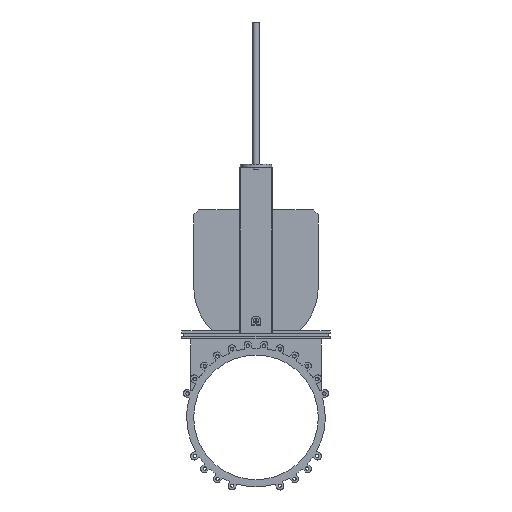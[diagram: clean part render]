
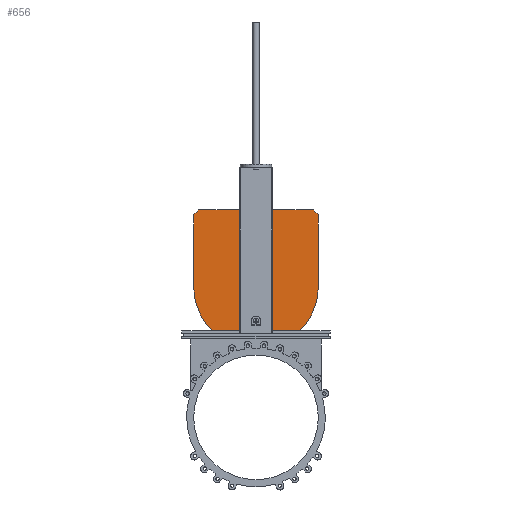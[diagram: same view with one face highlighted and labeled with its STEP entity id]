
A CAD part, front view. The second image highlights one B-rep face of the part: STEP entity #656.
In plain terms, the highlighted planar face has unit normal (0, -1, 0).
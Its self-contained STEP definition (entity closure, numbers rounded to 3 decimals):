
#656=ADVANCED_FACE('',(#4248),#4250,.T.);
#4248=FACE_BOUND('',#4249,.T.);
#4249=EDGE_LOOP('',(#7227,#7228,#7229,#7230,#7231,#7232,#7233,#7234,#7235,#7236,
#7237,#7238));
#4250=PLANE('',#4251);
#4251=AXIS2_PLACEMENT_3D('',#4252,#4253,#4254);
#4252=CARTESIAN_POINT('',(0.,-7.,0.));
#4253=DIRECTION('',(0.,-1.,0.));
#4254=DIRECTION('',(1.,0.,0.));
#7227=ORIENTED_EDGE('',*,*,#9151,.F.);
#7228=ORIENTED_EDGE('',*,*,#9183,.T.);
#7229=ORIENTED_EDGE('',*,*,#9184,.T.);
#7230=ORIENTED_EDGE('',*,*,#9185,.F.);
#7231=ORIENTED_EDGE('',*,*,#9186,.T.);
#7232=ORIENTED_EDGE('',*,*,#9187,.F.);
#7233=ORIENTED_EDGE('',*,*,#9188,.F.);
#7234=ORIENTED_EDGE('',*,*,#9189,.F.);
#7235=ORIENTED_EDGE('',*,*,#9190,.T.);
#7236=ORIENTED_EDGE('',*,*,#9191,.F.);
#7237=ORIENTED_EDGE('',*,*,#9192,.T.);
#7238=ORIENTED_EDGE('',*,*,#9193,.T.);
#9151=EDGE_CURVE('',#10325,#10327,#10328,.T.);
#9183=EDGE_CURVE('',#10325,#10387,#10389,.T.);
#9184=EDGE_CURVE('',#10387,#10390,#10391,.T.);
#9185=EDGE_CURVE('',#10392,#10390,#10393,.F.);
#9186=EDGE_CURVE('',#10392,#10394,#10395,.T.);
#9187=EDGE_CURVE('',#10396,#10394,#10397,.T.);
#9188=EDGE_CURVE('',#10398,#10396,#10399,.F.);
#9189=EDGE_CURVE('',#10400,#10398,#10401,.T.);
#9190=EDGE_CURVE('',#10400,#10402,#10403,.T.);
#9191=EDGE_CURVE('',#10404,#10402,#10405,.F.);
#9192=EDGE_CURVE('',#10404,#10406,#10407,.T.);
#9193=EDGE_CURVE('',#10406,#10327,#10408,.T.);
#10325=VERTEX_POINT('',#12489);
#10327=VERTEX_POINT('',#12493);
#10328=LINE('',#12494,#12495);
#10387=VERTEX_POINT('',#12631);
#10389=CIRCLE('',#12635,500.);
#10390=VERTEX_POINT('',#12639);
#10391=LINE('',#12640,#12641);
#10392=VERTEX_POINT('',#12643);
#10393=LINE('',#12644,#12645);
#10394=VERTEX_POINT('',#12647);
#10395=LINE('',#12648,#12649);
#10396=VERTEX_POINT('',#12651);
#10397=LINE('',#12652,#12653);
#10398=VERTEX_POINT('',#12655);
#10399=LINE('',#12656,#12657);
#10400=VERTEX_POINT('',#12659);
#10401=LINE('',#12660,#12661);
#10402=VERTEX_POINT('',#12663);
#10403=LINE('',#12664,#12665);
#10404=VERTEX_POINT('',#12667);
#10405=LINE('',#12668,#12669);
#10406=VERTEX_POINT('',#12671);
#10407=LINE('',#12672,#12673);
#10408=CIRCLE('',#12675,500.);
#12489=CARTESIAN_POINT('',(352.101,-7.,695.));
#12493=CARTESIAN_POINT('',(-352.101,-7.,695.));
#12494=CARTESIAN_POINT('',(352.101,-7.,695.));
#12495=VECTOR('',#12496,1.);
#12496=DIRECTION('',(-1.,0.,0.));
#12631=CARTESIAN_POINT('',(500.,-7.,1050.));
#12635=AXIS2_PLACEMENT_3D('',#12636,#12637,#12638);
#12636=CARTESIAN_POINT('',(0.,-7.,1050.));
#12637=DIRECTION('',(0.,-1.,0.));
#12638=DIRECTION('',(0.704,0.,-0.71));
#12639=CARTESIAN_POINT('',(500.,-7.,1625.));
#12640=CARTESIAN_POINT('',(500.,-7.,1050.));
#12641=VECTOR('',#12642,1.);
#12642=DIRECTION('',(0.,0.,1.));
#12643=CARTESIAN_POINT('',(460.,-7.,1665.));
#12644=CARTESIAN_POINT('',(500.,-7.,1625.));
#12645=VECTOR('',#12646,1.);
#12646=DIRECTION('',(-0.707,0.,0.707));
#12647=CARTESIAN_POINT('',(35.,-7.,1665.));
#12648=CARTESIAN_POINT('',(460.,-7.,1665.));
#12649=VECTOR('',#12650,1.);
#12650=DIRECTION('',(-1.,0.,0.));
#12651=CARTESIAN_POINT('',(35.,-7.,1660.));
#12652=CARTESIAN_POINT('',(35.,-7.,1660.));
#12653=VECTOR('',#12654,1.);
#12654=DIRECTION('',(0.,0.,1.));
#12655=CARTESIAN_POINT('',(-35.,-7.,1660.));
#12656=CARTESIAN_POINT('',(35.,-7.,1660.));
#12657=VECTOR('',#12658,1.);
#12658=DIRECTION('',(-1.,0.,0.));
#12659=CARTESIAN_POINT('',(-35.,-7.,1665.));
#12660=CARTESIAN_POINT('',(-35.,-7.,1665.));
#12661=VECTOR('',#12662,1.);
#12662=DIRECTION('',(0.,0.,-1.));
#12663=CARTESIAN_POINT('',(-460.,-7.,1665.));
#12664=CARTESIAN_POINT('',(-35.,-7.,1665.));
#12665=VECTOR('',#12666,1.);
#12666=DIRECTION('',(-1.,0.,0.));
#12667=CARTESIAN_POINT('',(-500.,-7.,1625.));
#12668=CARTESIAN_POINT('',(-460.,-7.,1665.));
#12669=VECTOR('',#12670,1.);
#12670=DIRECTION('',(-0.707,0.,-0.707));
#12671=CARTESIAN_POINT('',(-500.,-7.,1050.));
#12672=CARTESIAN_POINT('',(-500.,-7.,1625.));
#12673=VECTOR('',#12674,1.);
#12674=DIRECTION('',(0.,0.,-1.));
#12675=AXIS2_PLACEMENT_3D('',#12676,#12677,#12678);
#12676=CARTESIAN_POINT('',(0.,-7.,1050.));
#12677=DIRECTION('',(0.,-1.,0.));
#12678=DIRECTION('',(-1.,0.,0.));
